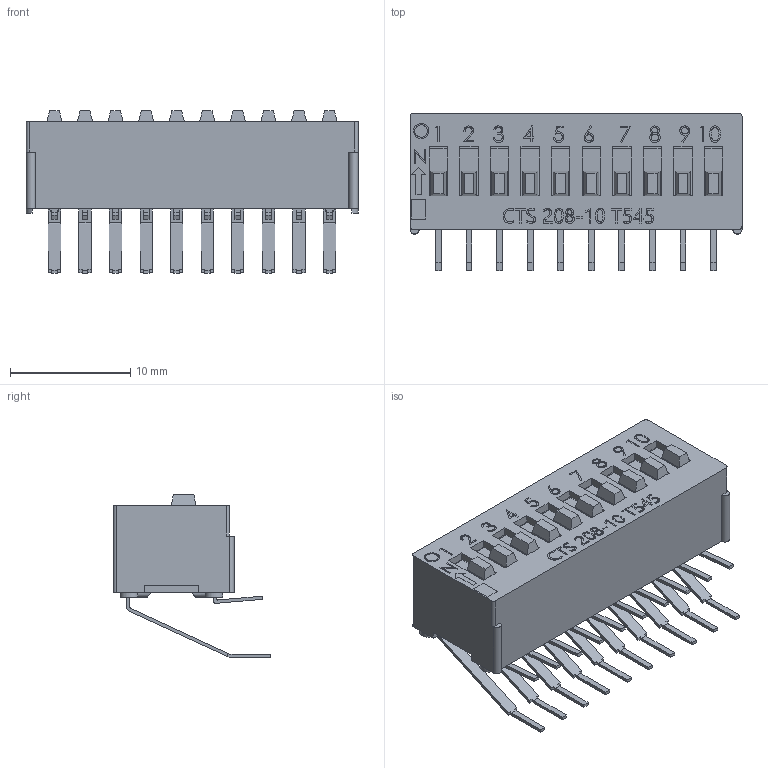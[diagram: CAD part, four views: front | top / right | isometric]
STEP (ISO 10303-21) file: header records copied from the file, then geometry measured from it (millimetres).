
FILE_DESCRIPTION (( 'STEP AP214' ), '1' );
FILE_NAME ('208-10RA.STEP', '2019-05-28T03:11:06', ( '' ), ( '' ), 'SwSTEP 2.0', 'SolidWorks 2019', '' );
FILE_SCHEMA (( 'AUTOMOTIVE_DESIGN' ));
Length unit declared in the file: millimetre
Products named in the file (4): 206010RAS- Base assly; 208-10RA cover; 206-56-014-35-01; 208-10RA
Assembly tree (12 placements, depth 2):
  208-10RA
    208-10RA cover
    206-56-014-35-01  x10
    206010RAS- Base assly
Bounding box: 27.58 x 13.08 x 13.5 mm (x, y, z)
Volume: 1199.9 mm3; surface area: 3850.7 mm2
Topology: 12 solids, 12 shells, 1057 faces, 2835 edges, 1872 vertices
Faces by surface type: plane 761, bspline 160, cylinder 136
Entity records: 31959 total; most frequent: CARTESIAN_POINT 14274, ORIENTED_EDGE 3852, DIRECTION 2876, EDGE_CURVE 1926, LINE 1468, VECTOR 1468, VERTEX_POINT 1278, EDGE_LOOP 798
